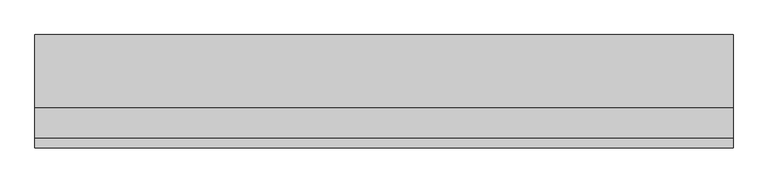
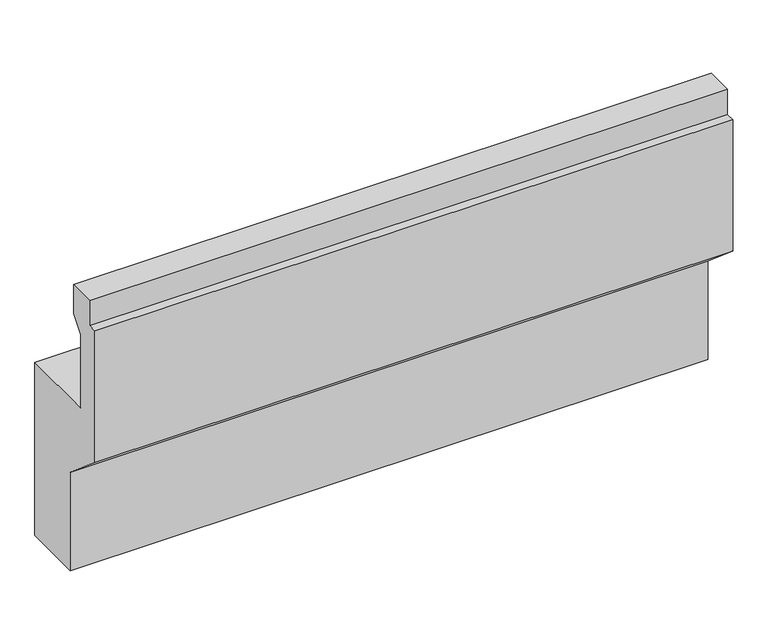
"""IFC4 building model written with IfcOpenShell, lengths in millimetres: column geometry, 교대 본체 : 교대 본체."""

from ifc_helpers import new_model, si_unit, frame, origin, place, context, project, spatial, polyline, outline, extrude, source, transform, mapped, element, save


def column_4557d2d2(model_context):
    return source(origin(), model_context, "Body", "SweptSolid", [
        extrude(outline(polyline([(-2400.0, 14150.0), (-2100.0, 14150.0), (-2100.0, 15030.0), (-1200.0, 15030.0), (-1200.0, 14030.0), (-1600.0, 13550.0), (-1600.0, 11000.0), (1000.0, 11000.0), (1000.0, 5000.0), (-1000.0, 5000.0), (-1000.0, 8400.0), (-2400.0, 9600.0), (-2400.0, 14150.0)])), frame((-10450.0, 0.0, 0.0), z_axis=(1.0, 0.0, 0.0), x_axis=(0.0, 1.0, 0.0)), (0.0, 0.0, 1.0), 20900.0),
    ])


if __name__ == "__main__":
    model = new_model("IFC4")
    model_context = context("Model", 3, world=origin())
    ifc_project = project(units=[si_unit("LENGTHUNIT", "METRE", prefix="MILLI")], contexts=[model_context])
    site = spatial("IfcSite", under=ifc_project)
    building = spatial("IfcBuilding", under=site)
    placement = place(None, origin())
    column_shape = column_4557d2d2(model_context)
    element("IfcColumn", 1, ObjectType="교대 본체 : 교대 본체", at=placement, inside=building, context=model_context, shape_type="MappedRepresentation", body=[
        mapped(column_shape, transform((0.0, 0.0, 0.0), x_axis=(1.0, 0.0, 0.0), y_axis=(0.0, 1.0, 0.0), z_axis=(0.0, 0.0, 1.0))),
    ])
    save(model, "model.ifc")
